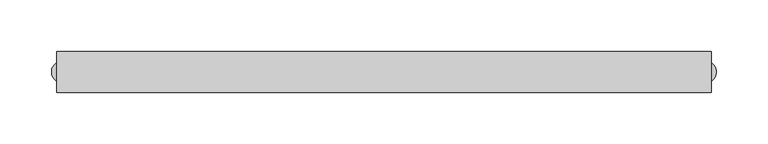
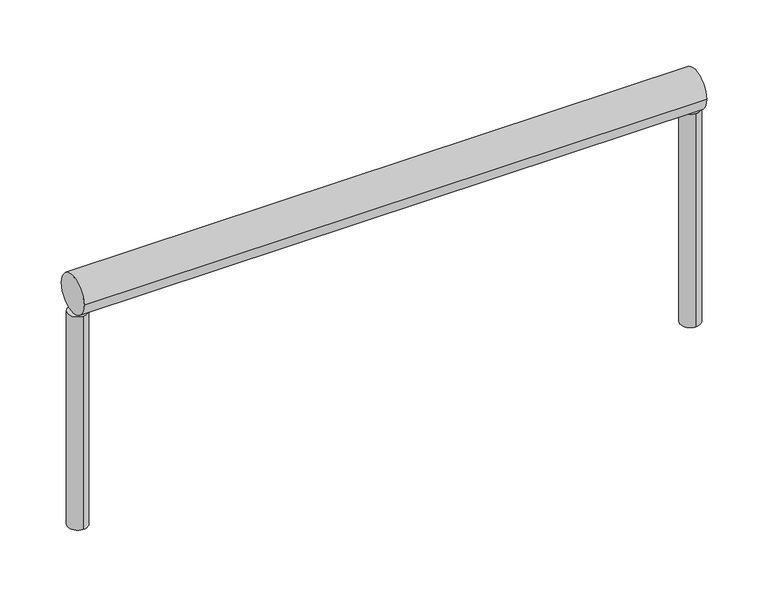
"""IFC4 building model written with IfcOpenShell, lengths in millimetres: railing geometry, Geländer-1."""

from ifc_helpers import new_model, si_unit, point, frame, frame_2d, origin, place, context, project, spatial, circle_curve, trimmed, segment, composite_curve, outline, extrude, source, transform, mapped, element, save


def railing_68ffcd14(model_context):
    return source(origin(), model_context, "Body", "SweptSolid", [
        extrude(outline(composite_curve([segment(trimmed(circle_curve(frame_2d((11973.4702793, 1250.0)), 20.0), [point((11953.4702793, 1250.0))], [point((11993.4702793, 1250.0))], False, "CARTESIAN"), True, "CONTINUOUS"), segment(trimmed(circle_curve(frame_2d((11973.4702793, 1250.0)), 20.0), [point((11993.4702793, 1250.0))], [point((11953.4702793, 1250.0))], False, "CARTESIAN"), True, "CONTINUOUS")], self_intersect=False)), frame((11.1567598, 0.0, 0.0), z_axis=(1.0, 0.0, 0.0), x_axis=(0.0, 1.0, 0.0)), (0.0, 0.0, 1.0), 635.0),
        extrude(outline(composite_curve([segment(trimmed(circle_curve(frame_2d((16.1567598, 11973.4702793)), 10.0), [point((16.1567598, 11963.4702793))], [point((16.1567598, 11983.4702793))], False, "CARTESIAN"), True, "CONTINUOUS"), segment(trimmed(circle_curve(frame_2d((16.1567598, 11973.4702793)), 10.0), [point((16.1567598, 11983.4702793))], [point((16.1567598, 11963.4702793))], False, "CARTESIAN"), True, "CONTINUOUS")], self_intersect=False)), frame((0.0, 0.0, 1000.0), z_axis=(0.0, 0.0, 1.0), x_axis=(1.0, 0.0, 0.0)), (0.0, 0.0, 1.0), 230.0),
        extrude(outline(composite_curve([segment(trimmed(circle_curve(frame_2d((641.1567598, 11973.4702793)), 10.0), [point((641.1567598, 11963.4702793))], [point((641.1567598, 11983.4702793))], False, "CARTESIAN"), True, "CONTINUOUS"), segment(trimmed(circle_curve(frame_2d((641.1567598, 11973.4702793)), 10.0), [point((641.1567598, 11983.4702793))], [point((641.1567598, 11963.4702793))], False, "CARTESIAN"), True, "CONTINUOUS")], self_intersect=False)), frame((0.0, 0.0, 1000.0), z_axis=(0.0, 0.0, 1.0), x_axis=(1.0, 0.0, 0.0)), (0.0, 0.0, 1.0), 230.0),
    ])


if __name__ == "__main__":
    model = new_model("IFC4")
    model_context = context("Model", 3, world=origin())
    ifc_project = project(units=[si_unit("LENGTHUNIT", "METRE", prefix="MILLI")], contexts=[model_context])
    site = spatial("IfcSite", under=ifc_project)
    building = spatial("IfcBuilding", under=site)
    placement = place(None, origin())
    railing_shape = railing_68ffcd14(model_context)
    element("IfcRailing", 1, ObjectType="Geländer-1", at=placement, inside=building, context=model_context, shape_type="MappedRepresentation", body=[
        mapped(railing_shape, transform((0.0, 0.0, 0.0), x_axis=(1.0, 0.0, 0.0), y_axis=(0.0, 1.0, 0.0), z_axis=(0.0, 0.0, 1.0))),
    ])
    save(model, "model.ifc")
